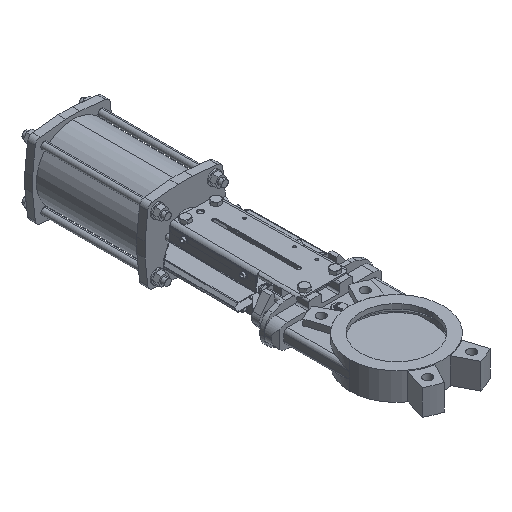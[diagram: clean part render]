
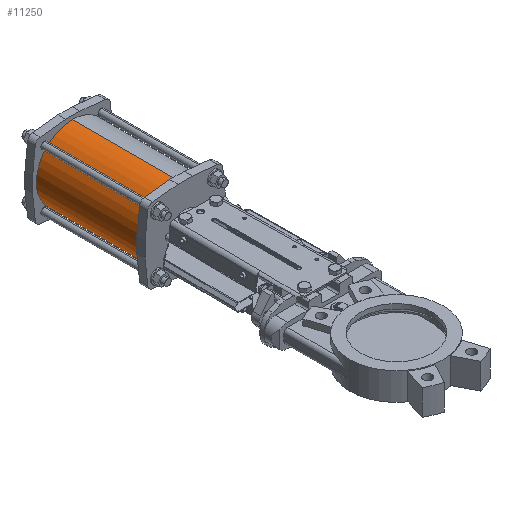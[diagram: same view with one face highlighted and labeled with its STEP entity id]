
A CAD part, isometric view. The second image highlights one B-rep face of the part: STEP entity #11250.
In plain terms, the highlighted cylindrical face has radius 66.5 mm (diameter 133 mm), a partial arc.
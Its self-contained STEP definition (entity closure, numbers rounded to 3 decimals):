
#498 = DIRECTION ( 'NONE',  ( 0., 0., -1. ) ) ;
#499 = DIRECTION ( 'NONE',  ( 0., 1., 0. ) ) ;
#500 = CARTESIAN_POINT ( 'NONE',  ( 0., 400., 0. ) ) ;
#501 = AXIS2_PLACEMENT_3D ( 'NONE', #500, #499, #498 ) ;
#502 = CIRCLE ( 'NONE', #501, 66.5 ) ;
#8608 = VERTEX_POINT ( 'NONE', #15834 ) ;
#8611 = VERTEX_POINT ( 'NONE', #15828 ) ;
#8632 = VERTEX_POINT ( 'NONE', #15860 ) ;
#8661 = VERTEX_POINT ( 'NONE', #15922 ) ;
#8682 = EDGE_CURVE ( 'NONE', #8608, #8661, #15946, .T. ) ;
#8773 = EDGE_CURVE ( 'NONE', #8611, #8632, #16085, .T. ) ;
#11250 = ADVANCED_FACE ( 'NONE', ( #25799 ), #25798, .T. ) ;
#11251 = EDGE_LOOP ( 'NONE', ( #11252, #11253, #11255, #11256 ) ) ;
#11252 = ORIENTED_EDGE ( 'NONE', *, *, #8773, .F. ) ;
#11253 = ORIENTED_EDGE ( 'NONE', *, *, #11254, .F. ) ;
#11254 = EDGE_CURVE ( 'NONE', #8608, #8611, #25796, .T. ) ;
#11255 = ORIENTED_EDGE ( 'NONE', *, *, #8682, .T. ) ;
#11256 = ORIENTED_EDGE ( 'NONE', *, *, #20833, .T. ) ;
#15828 = CARTESIAN_POINT ( 'NONE',  ( 0., 590., 66.5 ) ) ;
#15834 = CARTESIAN_POINT ( 'NONE',  ( 0., 590., -66.5 ) ) ;
#15860 = CARTESIAN_POINT ( 'NONE',  ( 0., 400., 66.5 ) ) ;
#15922 = CARTESIAN_POINT ( 'NONE',  ( 0., 400., -66.5 ) ) ;
#15943 = DIRECTION ( 'NONE',  ( 0., -1., 0. ) ) ;
#15944 = VECTOR ( 'NONE', #15943, 1000. ) ;
#15945 = CARTESIAN_POINT ( 'NONE',  ( 0., 590., -66.5 ) ) ;
#15946 = LINE ( 'NONE', #15945, #15944 ) ;
#16085 = LINE ( 'NONE', #16141, #16140 ) ;
#16139 = DIRECTION ( 'NONE',  ( 0., -1., 0. ) ) ;
#16140 = VECTOR ( 'NONE', #16139, 1000. ) ;
#16141 = CARTESIAN_POINT ( 'NONE',  ( 0., 590., 66.5 ) ) ;
#20833 = EDGE_CURVE ( 'NONE', #8661, #8632, #502, .T. ) ;
#25789 = DIRECTION ( 'NONE',  ( 0., 0., 1. ) ) ;
#25790 = DIRECTION ( 'NONE',  ( 0., 1., 0. ) ) ;
#25791 = CARTESIAN_POINT ( 'NONE',  ( 0., 590., 0. ) ) ;
#25792 = AXIS2_PLACEMENT_3D ( 'NONE', #25791, #25790, #25789 ) ;
#25793 = DIRECTION ( 'NONE',  ( 0., 0., -1. ) ) ;
#25794 = DIRECTION ( 'NONE',  ( 0., -1., 0. ) ) ;
#25795 = AXIS2_PLACEMENT_3D ( 'NONE', #25797, #25794, #25793 ) ;
#25796 = CIRCLE ( 'NONE', #25792, 66.5 ) ;
#25797 = CARTESIAN_POINT ( 'NONE',  ( 0., 590., 0. ) ) ;
#25798 = CYLINDRICAL_SURFACE ( 'NONE', #25795, 66.5 ) ;
#25799 = FACE_OUTER_BOUND ( 'NONE', #11251, .T. ) ;
